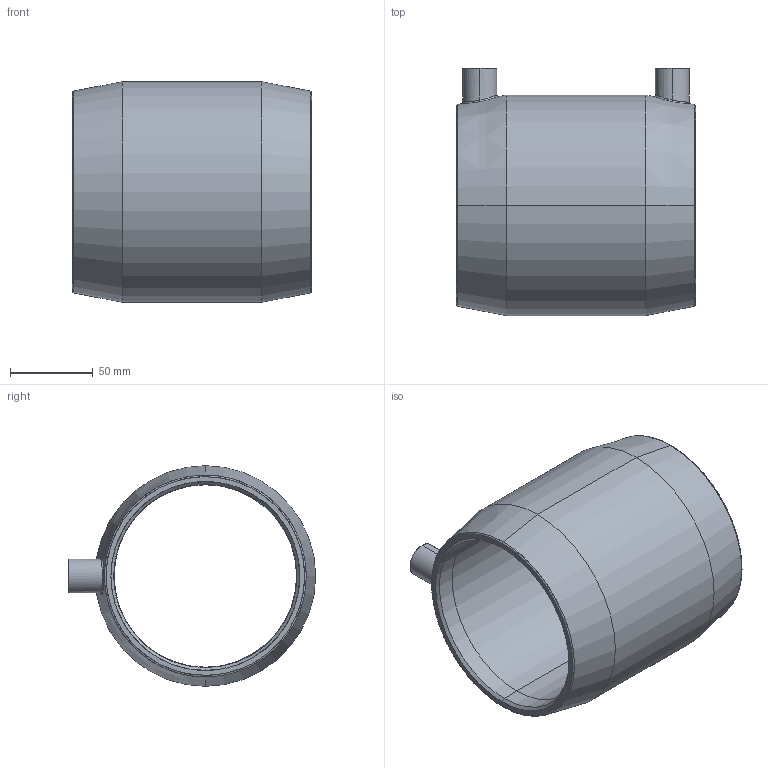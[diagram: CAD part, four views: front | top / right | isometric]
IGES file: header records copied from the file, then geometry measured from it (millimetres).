
Start section: SolidWorks IGES file using analytic representation for surfaces
Global section: file name: G:\Group\Marketing\Public\CAD Offering - Website\1. coupler\CBKHA110.IGS; native system: SolidWorks 2017; preprocessor: SolidWorks 2017; author: hwegrzynska; date: 180919.150845; units: millimetre
Bounding box: 144.2 x 149.1 x 133 mm (x, y, z)
Surface area: 116900.8 mm2 (no closed solid volume)
Topology: 0 solids, 0 shells, 56 faces, 902 edges, 902 vertices
Faces by surface type: revolution 36, bspline 20
